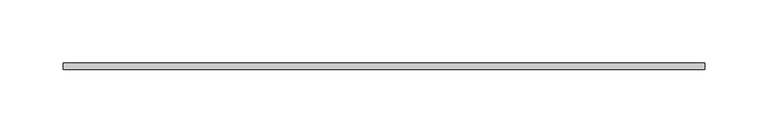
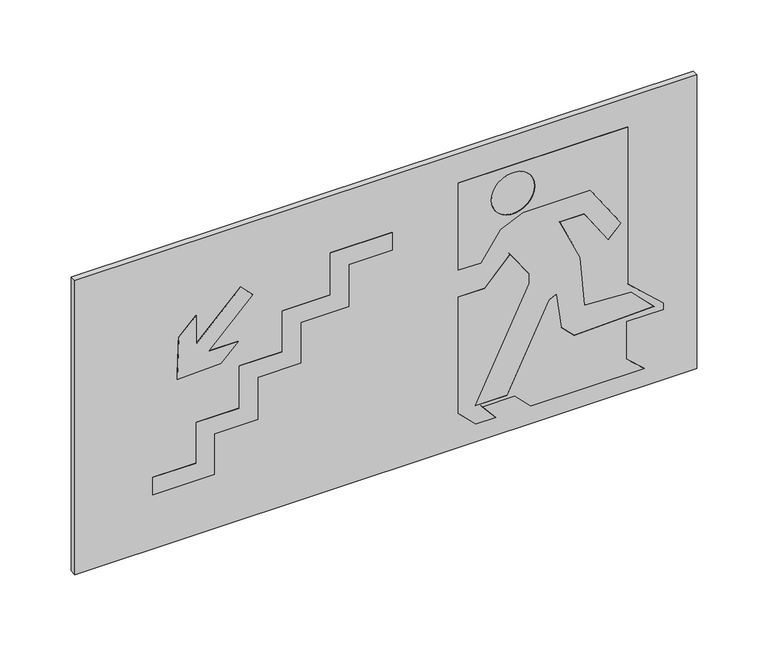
"""IFC4 building model written with IfcOpenShell, lengths in millimetres: flow terminal geometry, PLACA DE SINALIZAÇÃO-S9 : Distancia maxima visibilidade - 10 metros."""

from ifc_helpers import new_model, si_unit, point, frame, frame_2d, origin, place, context, project, spatial, polyline, circle_curve, trimmed, segment, composite_curve, outline, extrude, source, transform, mapped, element, save


def flow_terminal_1950b40e(model_context):
    return source(origin(), model_context, "Body", "SweptSolid", [
        extrude(outline(polyline([(227.5181482, 196.8742696), (227.5181482, 59.1208179), (152.5181482, 59.1208179), (152.5181482, 77.1670587), (175.4580193, 93.2297294), (183.9103845, 111.3558851), (183.9103845, 166.3558851), (146.6036937, 191.5195658), (135.997092, 180.9129641), (165.0134071, 161.3412125), (165.0134071, 141.3412125), (128.7610956, 158.2459429), (86.4413826, 161.948438), (84.4683967, 199.5952534), (65.6918961, 218.371754), (63.4234288, 153.4113502), (74.0300305, 142.8047485), (103.7380726, 138.6295555), (101.133451, 133.0439264), (31.0152114, 98.8449759), (31.0152114, 72.4090777), (120.894616, 116.2461924), (129.5264142, 116.2461924), (151.2975595, 101.0018723), (129.3569485, 80.5419215), (129.3569485, 59.1208179), (29.3569485, 59.1208179), (15.2148129, 73.2629536), (15.2148129, 89.5766102), (28.3250785, 78.5757912), (28.3250785, 104.7203579), (15.2148129, 117.8306236), (15.2148129, 210.2524922), (28.597425, 195.3895957), (60.6779692, 195.3895957), (60.6779692, 225.3895957), (65.9369645, 225.3895957), (92.5181482, 196.8742696), (227.5181482, 196.8742696)]), holes=[composite_curve([segment(trimmed(circle_curve(frame_2d((203.3084844, 103.3946644)), 17.7066682), [point((203.3084844, 85.6879962))], [point((203.3084844, 121.1013325))], True, "CARTESIAN"), True, "CONTINUOUS"), segment(trimmed(circle_curve(frame_2d((203.3084844, 103.3946644)), 17.7066682), [point((203.3084844, 121.1013325))], [point((203.3084844, 85.6879962))], True, "CARTESIAN"), True, "CONTINUOUS")], self_intersect=False)]), frame((0.0, -5.0, 0.0), z_axis=(0.0, 1.0, 0.0), x_axis=(0.0, 0.0, 1.0)), (0.0, 0.0, 1.0), 5.0),
        extrude(outline(polyline([(200.1147737, -118.036384), (163.8967817, -154.2543759), (188.3932917, -154.2543759), (174.221034, -168.4266337), (138.6114524, -169.6701477), (139.8549664, -134.060566), (154.0272241, -119.8883083), (154.0272241, -144.3848183), (190.245216, -108.1668263), (200.1147737, -118.036384)])), frame((0.0, -5.0, 0.0), z_axis=(0.0, 1.0, 0.0), x_axis=(0.0, 0.0, 1.0)), (0.0, 0.0, 1.0), 5.0),
        extrude(outline(polyline([(203.841439, 5.3323476), (203.841439, -45.2926524), (167.591439, -45.2926524), (167.591439, -84.2630493), (132.4819485, -84.2630493), (132.4819485, -119.2630493), (96.2319485, -119.2630493), (96.2319485, -154.2543759), (61.2319485, -154.2543759), (61.2319485, -189.2543759), (46.2319485, -189.2543759), (46.2319485, -139.2543759), (81.2319485, -139.2543759), (81.2319485, -104.2630493), (117.4819485, -104.2630493), (117.4819485, -69.2630493), (152.591439, -69.2630493), (152.591439, -30.2926524), (188.841439, -30.2926524), (188.841439, 5.3323476), (203.841439, 5.3323476)])), frame((0.0, -5.0, 0.0), z_axis=(0.0, 1.0, 0.0), x_axis=(0.0, 0.0, 1.0)), (0.0, 0.0, 1.0), 5.0),
        extrude(outline(polyline([(0.0, -253.0), (0.0, 253.0), (253.0, 253.0), (253.0, -253.0), (0.0, -253.0)]), holes=[polyline([(227.5181482, 196.8742696), (92.5181482, 196.8742696), (65.9369645, 225.3895957), (60.6779692, 225.3895957), (60.6779692, 195.3895957), (28.597425, 195.3895957), (15.2148129, 210.2524922), (15.2148129, 117.8306236), (28.3250785, 104.7203579), (28.3250785, 78.5757912), (15.2148129, 89.5766102), (15.2148129, 73.2629536), (29.3569485, 59.1208179), (129.3569485, 59.1208179), (129.3569485, 80.5419215), (151.2975595, 101.0018723), (129.5264142, 116.2461924), (120.894616, 116.2461924), (31.0152114, 72.4090777), (31.0152114, 98.8449759), (101.133451, 133.0439264), (103.7380726, 138.6295555), (74.0300305, 142.8047485), (63.4234288, 153.4113502), (65.6918961, 218.371754), (84.4683967, 199.5952534), (86.4413826, 161.948438), (128.7610956, 158.2459429), (165.0134071, 141.3412125), (165.0134071, 161.3412125), (135.997092, 180.9129641), (146.6036937, 191.5195658), (183.9103845, 166.3558851), (183.9103845, 111.3558851), (175.4580193, 93.2297294), (152.5181482, 77.1670587), (152.5181482, 59.1208179), (227.5181482, 59.1208179), (227.5181482, 196.8742696)]), polyline([(154.0272241, -144.3848183), (154.0272241, -119.8883083), (139.8549664, -134.060566), (138.6114524, -169.6701477), (174.221034, -168.4266337), (188.3932917, -154.2543759), (163.8967817, -154.2543759), (200.1147737, -118.036384), (190.245216, -108.1668263), (154.0272241, -144.3848183)]), polyline([(203.841439, -45.2926524), (203.841439, 5.3323476), (188.841439, 5.3323476), (188.841439, -30.2926524), (152.591439, -30.2926524), (152.591439, -69.2630493), (117.4819485, -69.2630493), (117.4819485, -104.2630493), (81.2319485, -104.2630493), (81.2319485, -139.2543759), (46.2319485, -139.2543759), (46.2319485, -189.2543759), (61.2319485, -189.2543759), (61.2319485, -154.2543759), (96.2319485, -154.2543759), (96.2319485, -119.2630493), (132.4819485, -119.2630493), (132.4819485, -84.2630493), (167.591439, -84.2630493), (167.591439, -45.2926524), (203.841439, -45.2926524)])]), frame((0.0, -5.0, 0.0), z_axis=(0.0, 1.0, 0.0), x_axis=(0.0, 0.0, 1.0)), (0.0, 0.0, 1.0), 5.0),
        extrude(outline(composite_curve([segment(trimmed(circle_curve(frame_2d((203.3084844, 103.3946644)), 17.7066682), [point((203.3084844, 121.1013325))], [point((203.3084844, 85.6879962))], False, "CARTESIAN"), True, "CONTINUOUS"), segment(trimmed(circle_curve(frame_2d((203.3084844, 103.3946644)), 17.7066682), [point((203.3084844, 85.6879962))], [point((203.3084844, 121.1013325))], False, "CARTESIAN"), True, "CONTINUOUS")], self_intersect=False)), frame((0.0, -5.0, 0.0), z_axis=(0.0, 1.0, 0.0), x_axis=(0.0, 0.0, 1.0)), (0.0, 0.0, 1.0), 5.0),
    ])


if __name__ == "__main__":
    model = new_model("IFC4")
    model_context = context("Model", 3, world=origin())
    ifc_project = project(units=[si_unit("LENGTHUNIT", "METRE", prefix="MILLI")], contexts=[model_context])
    site = spatial("IfcSite", under=ifc_project)
    building = spatial("IfcBuilding", under=site)
    placement = place(None, origin())
    flow_terminal_shape = flow_terminal_1950b40e(model_context)
    element("IfcFlowTerminal", 1, ObjectType="PLACA DE SINALIZAÇÃO-S9 : Distancia maxima visibilidade - 10 metros", at=placement, inside=building, context=model_context, shape_type="MappedRepresentation", body=[
        mapped(flow_terminal_shape, transform((0.0, 0.0, 0.0), x_axis=(1.0, 0.0, 0.0), y_axis=(0.0, 1.0, 0.0), z_axis=(0.0, 0.0, 1.0))),
    ])
    save(model, "model.ifc")
